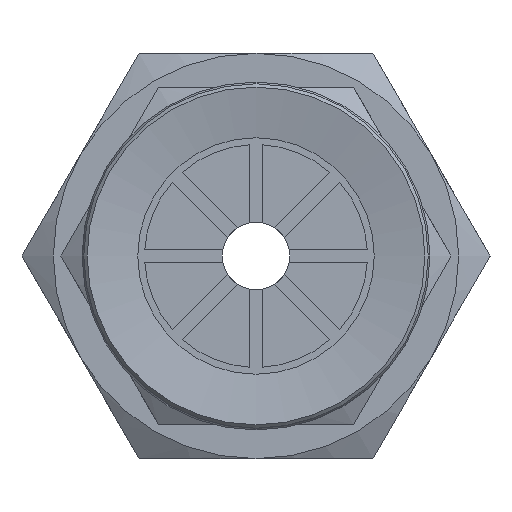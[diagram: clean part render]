
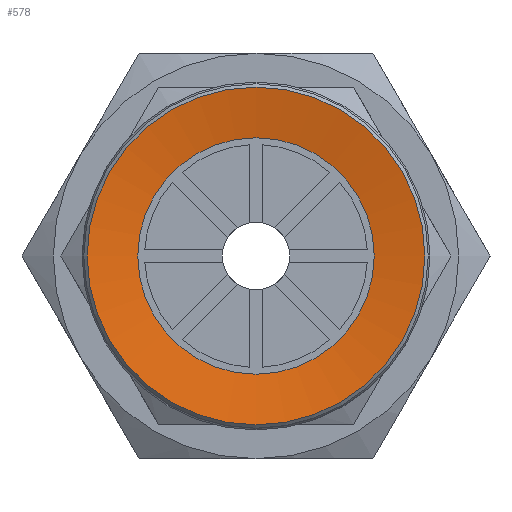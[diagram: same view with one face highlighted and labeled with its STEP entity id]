
A CAD part, front view. The second image highlights one B-rep face of the part: STEP entity #578.
In plain terms, the highlighted conical face has half-angle 80 degrees and reference radius 5 mm.
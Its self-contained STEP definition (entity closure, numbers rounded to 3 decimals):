
#578=ADVANCED_FACE('',(#896,#897),#898,.F.);
#896=FACE_BOUND('',#1245,.T.);
#897=FACE_OUTER_BOUND('',#1246,.T.);
#898=CONICAL_SURFACE('',#1247,5.0,1.396);
#1245=EDGE_LOOP('',(#2147));
#1246=EDGE_LOOP('',(#2148));
#1247=AXIS2_PLACEMENT_3D('',#2149,#2150,#2151);
#2147=ORIENTED_EDGE('',*,*,#2413,.T.);
#2148=ORIENTED_EDGE('',*,*,#2496,.F.);
#2149=CARTESIAN_POINT('',(0.0,0.,0.));
#2150=DIRECTION('',(0.0,0.,-1.0));
#2151=DIRECTION('',(0.0,1.0,0.));
#2413=EDGE_CURVE('',#2791,#2791,#2792,.T.);
#2496=EDGE_CURVE('',#2934,#2934,#2935,.T.);
#2791=VERTEX_POINT('',#3581);
#2792=CIRCLE('',#3582,3.5);
#2934=VERTEX_POINT('',#3765);
#2935=CIRCLE('',#3766,5.0);
#3581=CARTESIAN_POINT('',(0.0,-3.5,0.264));
#3582=AXIS2_PLACEMENT_3D('',#4082,#4083,#4084);
#3765=CARTESIAN_POINT('',(0.0,-5.0,0.));
#3766=AXIS2_PLACEMENT_3D('',#4249,#4250,#4251);
#4082=CARTESIAN_POINT('',(0.0,0.,0.264));
#4083=DIRECTION('',(0.0,0.,1.0));
#4084=DIRECTION('',(0.0,-1.0,0.));
#4249=CARTESIAN_POINT('',(0.0,0.,0.));
#4250=DIRECTION('',(0.0,0.,1.0));
#4251=DIRECTION('',(0.0,-1.0,0.));
